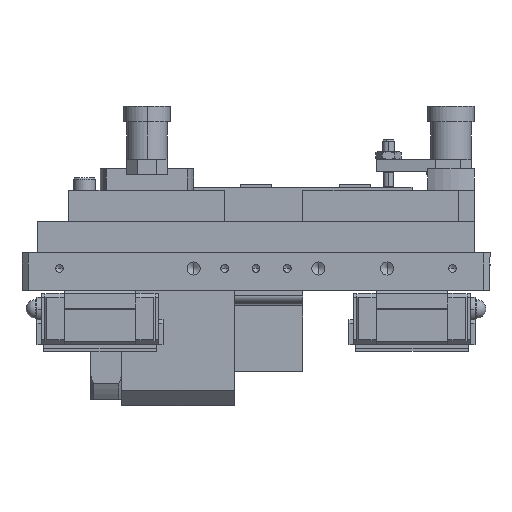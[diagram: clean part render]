
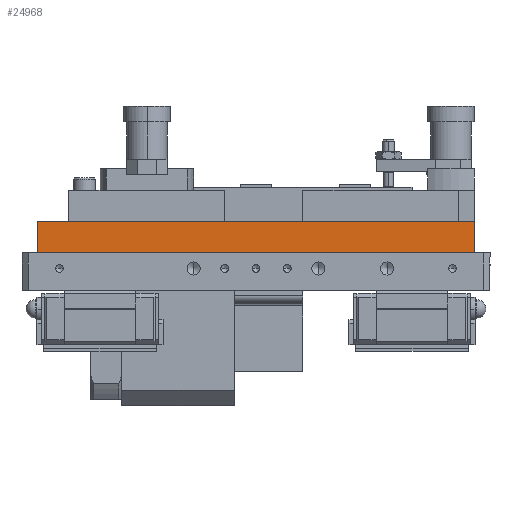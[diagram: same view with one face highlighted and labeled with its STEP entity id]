
A CAD part, left-side view. The second image highlights one B-rep face of the part: STEP entity #24968.
In plain terms, the highlighted planar face has unit normal (-1, 0, 0) as drawn and (0, 0, -1) by its records, which use the part's own axes.
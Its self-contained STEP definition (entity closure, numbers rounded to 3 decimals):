
#138 = LINE ( 'NONE', #5133, #39624 ) ;
#1216 = DIRECTION ( 'NONE',  ( 0., -1., 0. ) ) ;
#3044 = DIRECTION ( 'NONE',  ( 0., -1., 0. ) ) ;
#3198 = ORIENTED_EDGE ( 'NONE', *, *, #29712, .F. ) ;
#3906 = CARTESIAN_POINT ( 'NONE',  ( 0., 0., -140. ) ) ;
#5133 = CARTESIAN_POINT ( 'NONE',  ( 0., 10., -140. ) ) ;
#5741 = EDGE_CURVE ( 'NONE', #9357, #25029, #15927, .T. ) ;
#7275 = VECTOR ( 'NONE', #49677, 1000. ) ;
#7729 = CARTESIAN_POINT ( 'NONE',  ( 140., 0., -140. ) ) ;
#8569 = CARTESIAN_POINT ( 'NONE',  ( 140., 10., -140. ) ) ;
#9357 = VERTEX_POINT ( 'NONE', #42651 ) ;
#9885 = VERTEX_POINT ( 'NONE', #7729 ) ;
#11348 = FACE_OUTER_BOUND ( 'NONE', #18549, .T. ) ;
#15688 = DIRECTION ( 'NONE',  ( 0., 0., 1. ) ) ;
#15927 = LINE ( 'NONE', #42010, #38678 ) ;
#17218 = LINE ( 'NONE', #41341, #7275 ) ;
#18549 = EDGE_LOOP ( 'NONE', ( #45941, #35793, #43397, #3198 ) ) ;
#19412 = LINE ( 'NONE', #8569, #49643 ) ;
#24674 = EDGE_CURVE ( 'NONE', #32470, #9885, #19412, .T. ) ;
#24968 = ADVANCED_FACE ( 'NONE', ( #11348 ), #39935, .F. ) ;
#25029 = VERTEX_POINT ( 'NONE', #3906 ) ;
#29712 = EDGE_CURVE ( 'NONE', #25029, #9885, #17218, .T. ) ;
#31209 = EDGE_CURVE ( 'NONE', #32470, #9357, #138, .T. ) ;
#31698 = AXIS2_PLACEMENT_3D ( 'NONE', #43909, #15688, #47567 ) ;
#32470 = VERTEX_POINT ( 'NONE', #43111 ) ;
#35793 = ORIENTED_EDGE ( 'NONE', *, *, #31209, .F. ) ;
#38678 = VECTOR ( 'NONE', #3044, 1000. ) ;
#39624 = VECTOR ( 'NONE', #48462, 1000. ) ;
#39935 = PLANE ( 'NONE',  #31698 ) ;
#41341 = CARTESIAN_POINT ( 'NONE',  ( 0., 0., -140. ) ) ;
#42010 = CARTESIAN_POINT ( 'NONE',  ( 0., 10., -140. ) ) ;
#42651 = CARTESIAN_POINT ( 'NONE',  ( 0., 10., -140. ) ) ;
#43111 = CARTESIAN_POINT ( 'NONE',  ( 140., 10., -140. ) ) ;
#43397 = ORIENTED_EDGE ( 'NONE', *, *, #24674, .T. ) ;
#43909 = CARTESIAN_POINT ( 'NONE',  ( 0., 10., -140. ) ) ;
#45941 = ORIENTED_EDGE ( 'NONE', *, *, #5741, .F. ) ;
#47567 = DIRECTION ( 'NONE',  ( 1., 0., 0. ) ) ;
#48462 = DIRECTION ( 'NONE',  ( -1., 0., 0. ) ) ;
#49643 = VECTOR ( 'NONE', #1216, 1000. ) ;
#49677 = DIRECTION ( 'NONE',  ( 1., 0., 0. ) ) ;
